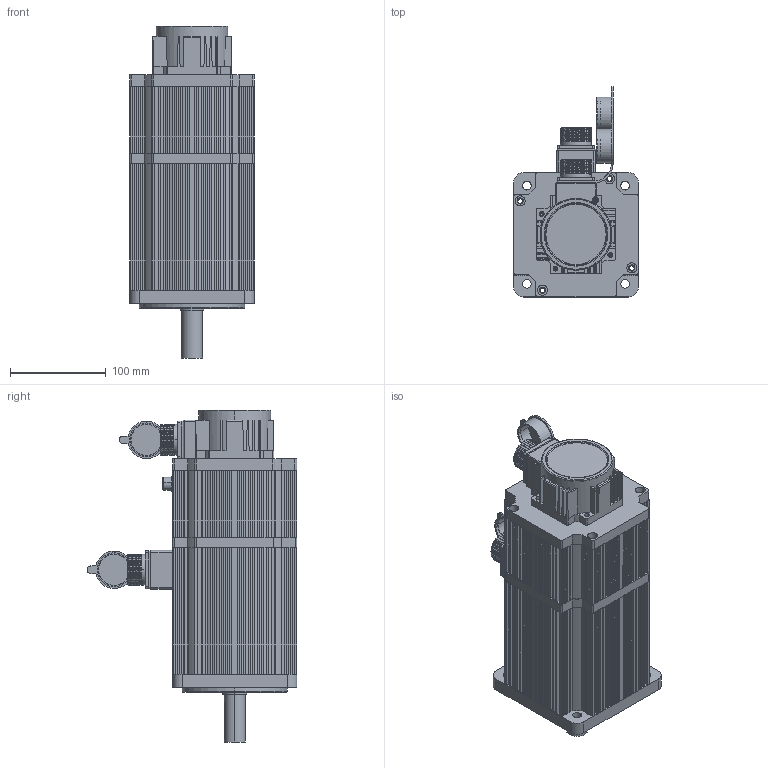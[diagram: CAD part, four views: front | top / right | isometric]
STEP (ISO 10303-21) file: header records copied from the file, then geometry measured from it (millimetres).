
FILE_DESCRIPTION (( 'STEP AP203' ), '1' );
FILE_NAME ('130 10N.M2500R抱闸.STEP', '2019-07-23T06:13:21', ( '微软用户' ), ( '微软中国' ), 'SwSTEP 2.0', 'SolidWorks 2016', '' );
FILE_SCHEMA (( 'CONFIG_CONTROL_DESIGN' ));
Length unit declared in the file: millimetre
Products named in the file (15): 15郋瑤脣; 130 6N.M惕掅粣; 15郋瑤脣釱; 130惕掅綴裔; 130惕掅儂褲; 130儂褲; 惕掅脣芛; 4郋瑤脣; 130 10N.M2500R惕掅; 瑤脣價釱; 瑤脣々菜; 130ヶ裔; 130-4郋瑤脣釱; 130綴裔; 晤鎢ん欶
Assembly tree (15 placements, depth 3):
  130 10N.M2500R惕掅
    130ヶ裔
    130綴裔
    晤鎢ん欶
    130 6N.M惕掅粣
    130惕掅綴裔
    130儂褲
    130-4郋瑤脣釱
      4郋瑤脣
      瑤脣價釱
      瑤脣々菜
    15郋瑤脣釱
      15郋瑤脣
      瑤脣々菜
    130惕掅儂褲
    惕掅脣芛
Bounding box: 130 x 219.29 x 347 mm (x, y, z)
Volume: 1206358.3 mm3; surface area: 584677.1 mm2
Topology: 14 solids, 14 shells, 1859 faces, 5052 edges, 3278 vertices
Faces by surface type: plane 996, cylinder 735, torus 49, sphere 36, cone 35, bspline 8
Entity records: 61899 total; most frequent: CARTESIAN_POINT 14112, ORIENTED_EDGE 9692, DIRECTION 9641, EDGE_CURVE 4846, AXIS2_PLACEMENT_3D 3250, VERTEX_POINT 3178, LINE 3141, VECTOR 3141
